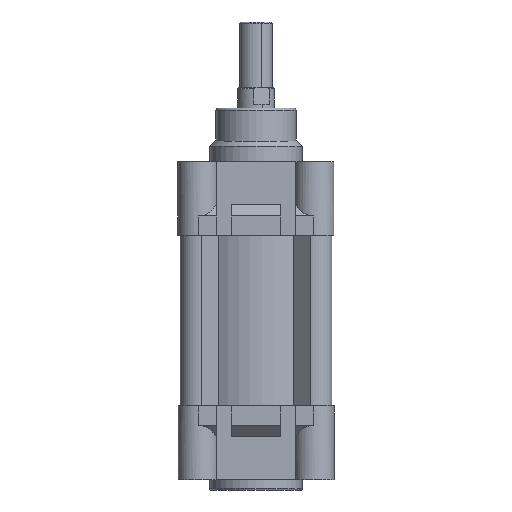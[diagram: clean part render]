
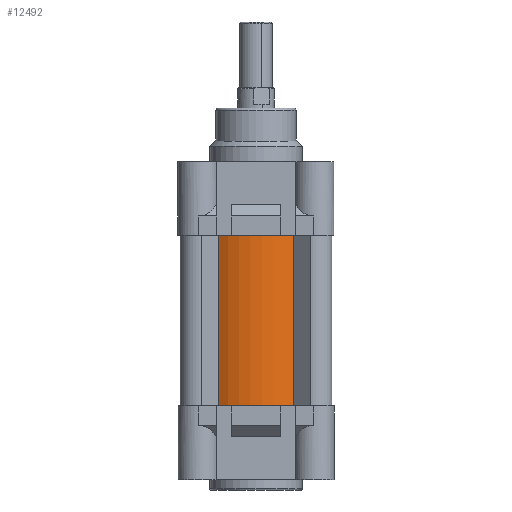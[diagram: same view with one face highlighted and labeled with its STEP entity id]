
A CAD part, front view. The second image highlights one B-rep face of the part: STEP entity #12492.
In plain terms, the highlighted cylindrical face has radius 34 mm (diameter 68 mm), a partial arc.
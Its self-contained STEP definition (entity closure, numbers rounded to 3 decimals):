
#318 = DIRECTION ( 'NONE',  ( 0., 0., -1. ) ) ;
#649 = DIRECTION ( 'NONE',  ( 0., 0., 1. ) ) ;
#665 = CARTESIAN_POINT ( 'NONE',  ( 18.681, 8.357, 83. ) ) ;
#1613 = DIRECTION ( 'NONE',  ( 0., 0., -1. ) ) ;
#2266 = AXIS2_PLACEMENT_3D ( 'NONE', #8815, #318, #15563 ) ;
#3368 = CARTESIAN_POINT ( 'NONE',  ( 55.319, 8.357, 83. ) ) ;
#3780 = ORIENTED_EDGE ( 'NONE', *, *, #14214, .T. ) ;
#4666 = VERTEX_POINT ( 'NONE', #11819 ) ;
#5614 = EDGE_CURVE ( 'NONE', #12579, #18799, #19880, .T. ) ;
#7338 = LINE ( 'NONE', #665, #15732 ) ;
#7817 = ORIENTED_EDGE ( 'NONE', *, *, #20165, .F. ) ;
#8145 = CIRCLE ( 'NONE', #9996, 34. ) ;
#8815 = CARTESIAN_POINT ( 'NONE',  ( 37., 37., 83. ) ) ;
#9026 = CARTESIAN_POINT ( 'NONE',  ( 55.319, 8.357, 0. ) ) ;
#9338 = AXIS2_PLACEMENT_3D ( 'NONE', #12288, #649, #12360 ) ;
#9996 = AXIS2_PLACEMENT_3D ( 'NONE', #19713, #11139, #14549 ) ;
#10341 = CARTESIAN_POINT ( 'NONE',  ( 18.681, 8.357, 83. ) ) ;
#10708 = VECTOR ( 'NONE', #1613, 1000. ) ;
#10774 = CARTESIAN_POINT ( 'NONE',  ( 55.319, 8.357, 83. ) ) ;
#11139 = DIRECTION ( 'NONE',  ( 0., 0., 1. ) ) ;
#11586 = FACE_OUTER_BOUND ( 'NONE', #17204, .T. ) ;
#11819 = CARTESIAN_POINT ( 'NONE',  ( 18.681, 8.357, 0. ) ) ;
#12288 = CARTESIAN_POINT ( 'NONE',  ( 37., 37., 83. ) ) ;
#12360 = DIRECTION ( 'NONE',  ( 1., 0., 0. ) ) ;
#12492 = ADVANCED_FACE ( 'NONE', ( #11586 ), #14259, .T. ) ;
#12579 = VERTEX_POINT ( 'NONE', #10774 ) ;
#14214 = EDGE_CURVE ( 'NONE', #16094, #4666, #7338, .T. ) ;
#14259 = CYLINDRICAL_SURFACE ( 'NONE', #2266, 34. ) ;
#14549 = DIRECTION ( 'NONE',  ( 1., 0., 0. ) ) ;
#15563 = DIRECTION ( 'NONE',  ( -1., 0., 0. ) ) ;
#15732 = VECTOR ( 'NONE', #15911, 1000. ) ;
#15911 = DIRECTION ( 'NONE',  ( 0., 0., -1. ) ) ;
#16094 = VERTEX_POINT ( 'NONE', #10341 ) ;
#17204 = EDGE_LOOP ( 'NONE', ( #17732, #20090, #7817, #3780 ) ) ;
#17732 = ORIENTED_EDGE ( 'NONE', *, *, #21709, .T. ) ;
#18799 = VERTEX_POINT ( 'NONE', #9026 ) ;
#19713 = CARTESIAN_POINT ( 'NONE',  ( 37., 37., 0. ) ) ;
#19880 = LINE ( 'NONE', #3368, #10708 ) ;
#20090 = ORIENTED_EDGE ( 'NONE', *, *, #5614, .F. ) ;
#20165 = EDGE_CURVE ( 'NONE', #16094, #12579, #21611, .T. ) ;
#21611 = CIRCLE ( 'NONE', #9338, 34. ) ;
#21709 = EDGE_CURVE ( 'NONE', #4666, #18799, #8145, .T. ) ;
